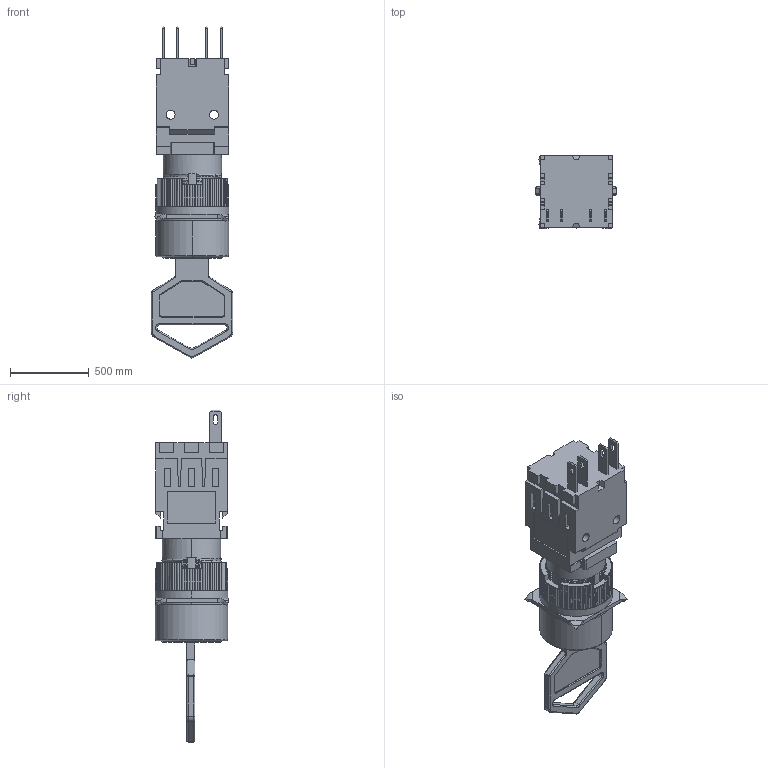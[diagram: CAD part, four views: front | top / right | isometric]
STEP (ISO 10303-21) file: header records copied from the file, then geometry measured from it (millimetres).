
FILE_DESCRIPTION((''),'2;1');
FILE_NAME('ASM0006_ASM','2016-06-03T',('Administrator'),(''),'PRO/ENGINEER BY PARAMETRIC TECHNOLOGY CORPORATION, 2012360','PRO/ENGINEER BY PARAMETRIC TECHNOLOGY CORPORATION, 2012360','');
FILE_SCHEMA(('CONFIG_CONTROL_DESIGN'));
Length unit declared in the file: inch
Products named in the file (1): ASM0006_ASM
Bounding box: 518.19 x 468.06 x 2105.96 mm (x, y, z)
Volume: 220545820.9 mm3; surface area: 4736227.4 mm2
Topology: 1 solids, 6 shells, 1000 faces, 2682 edges, 1707 vertices
Faces by surface type: plane 487, cylinder 392, bspline 97, torus 14, cone 6, sphere 4
Entity records: 42779 total; most frequent: CARTESIAN_POINT 18485, ORIENTED_EDGE 5364, DIRECTION 4681, EDGE_CURVE 2682, VERTEX_POINT 1707, AXIS2_PLACEMENT_3D 1619, VECTOR 1443, LINE 1443
